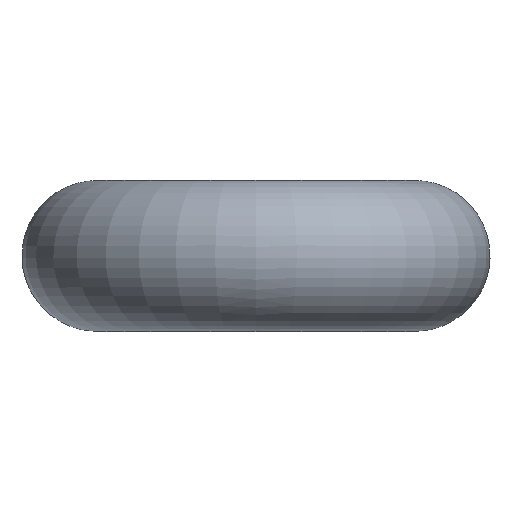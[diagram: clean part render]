
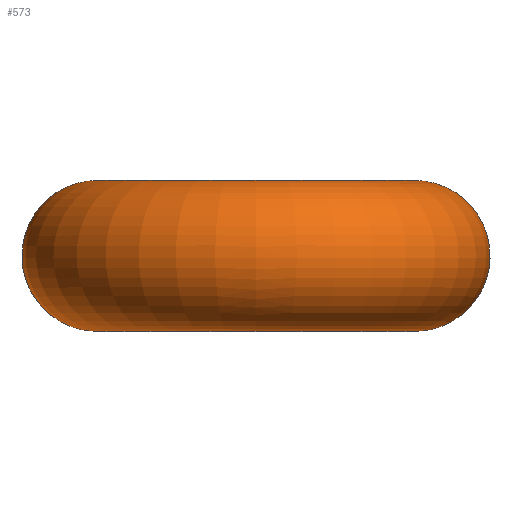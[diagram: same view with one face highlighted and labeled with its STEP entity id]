
A CAD part, top view. The second image highlights one B-rep face of the part: STEP entity #573.
In plain terms, the highlighted toroidal (fillet/blend) face has major radius 5.25 mm and minor radius 2.5 mm.
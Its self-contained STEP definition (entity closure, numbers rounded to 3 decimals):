
#445=CARTESIAN_POINT('',(4.999,0.464,-5.901));
#446=VERTEX_POINT('',#445);
#477=CARTESIAN_POINT('',(4.999,0.465,-5.901));
#478=CARTESIAN_POINT('',(5.113,0.476,-5.806));
#479=CARTESIAN_POINT('',(5.337,0.437,-5.599));
#480=CARTESIAN_POINT('',(5.573,0.199,-5.31));
#481=CARTESIAN_POINT('',(5.631,-0.149,-5.095));
#482=CARTESIAN_POINT('',(5.496,-0.538,-4.968));
#483=CARTESIAN_POINT('',(5.219,-0.837,-4.949));
#484=CARTESIAN_POINT('',(4.866,-1.052,-5.019));
#485=CARTESIAN_POINT('',(4.494,-1.171,-5.177));
#486=CARTESIAN_POINT('',(4.219,-1.128,-5.465));
#487=CARTESIAN_POINT('',(4.106,-1.011,-5.704));
#488=CARTESIAN_POINT('',(4.043,-0.856,-5.923));
#489=CARTESIAN_POINT('',(4.044,-0.511,-6.243));
#490=CARTESIAN_POINT('',(4.255,-0.003,-6.365));
#491=CARTESIAN_POINT('',(4.652,0.368,-6.169));
#492=CARTESIAN_POINT('',(4.885,0.453,-5.996));
#493=CARTESIAN_POINT('',(4.999,0.465,-5.901));
#494=B_SPLINE_CURVE_WITH_KNOTS('',3,(#477,#478,#479,#480,#481,#482,#483,#484,#485,#486,#487,#488,#489,#490,#491,#492,#493),.UNSPECIFIED.,.T.,.U.,(4,1,1,1,1,1,1,1,1,1,1,1,1,1,4),(0.0,0.02,0.041,0.061,0.081,0.106,0.122,0.142,0.162,0.172,0.183,0.203,0.243,0.264,0.284),.UNSPECIFIED.);
#495=EDGE_CURVE('',#446,#446,#494,.T.);
#520=CARTESIAN_POINT('',(0.,0.75,0.));
#521=DIRECTION('',(0.,-1.0,0.));
#522=DIRECTION('',(0.0,0.0,1.0));
#523=AXIS2_PLACEMENT_3D('',#520,#521,#522);
#524=TOROIDAL_SURFACE('',#523,5.25,2.5);
#525=CARTESIAN_POINT('',(0.,3.25,5.25));
#526=VERTEX_POINT('',#525);
#527=CARTESIAN_POINT('',(0.,3.25,0.));
#528=DIRECTION('',(0.0,-1.0,0.0));
#529=DIRECTION('',(0.0,0.0,-1.0));
#530=AXIS2_PLACEMENT_3D('',#527,#528,#529);
#531=CIRCLE('',#530,5.25);
#532=EDGE_CURVE('',#526,#526,#531,.T.);
#533=ORIENTED_EDGE('',*,*,#532,.T.);
#534=EDGE_LOOP('',(#533));
#535=FACE_OUTER_BOUND('',#534,.T.);
#536=CARTESIAN_POINT('',(0.,-1.75,5.25));
#537=VERTEX_POINT('',#536);
#538=CARTESIAN_POINT('',(0.,-1.75,0.));
#539=DIRECTION('',(0.0,1.0,0.0));
#540=DIRECTION('',(0.0,0.0,-1.0));
#541=AXIS2_PLACEMENT_3D('',#538,#539,#540);
#542=CIRCLE('',#541,5.25);
#543=EDGE_CURVE('',#537,#537,#542,.T.);
#544=ORIENTED_EDGE('',*,*,#543,.T.);
#545=EDGE_LOOP('',(#544));
#546=FACE_BOUND('',#545,.T.);
#547=CARTESIAN_POINT('',(-4.999,1.036,-5.901));
#548=VERTEX_POINT('',#547);
#549=CARTESIAN_POINT('',(-5.,1.036,-5.9));
#550=CARTESIAN_POINT('',(-5.114,1.024,-5.805));
#551=CARTESIAN_POINT('',(-5.339,1.065,-5.598));
#552=CARTESIAN_POINT('',(-5.572,1.301,-5.31));
#553=CARTESIAN_POINT('',(-5.632,1.649,-5.095));
#554=CARTESIAN_POINT('',(-5.462,2.128,-4.942));
#555=CARTESIAN_POINT('',(-5.033,2.498,-4.95));
#556=CARTESIAN_POINT('',(-4.495,2.67,-5.176));
#557=CARTESIAN_POINT('',(-4.218,2.628,-5.466));
#558=CARTESIAN_POINT('',(-4.106,2.51,-5.704));
#559=CARTESIAN_POINT('',(-4.042,2.356,-5.924));
#560=CARTESIAN_POINT('',(-4.043,2.083,-6.175));
#561=CARTESIAN_POINT('',(-4.162,1.728,-6.313));
#562=CARTESIAN_POINT('',(-4.45,1.27,-6.301));
#563=CARTESIAN_POINT('',(-4.772,1.06,-6.09));
#564=CARTESIAN_POINT('',(-5.,1.036,-5.9));
#565=B_SPLINE_CURVE_WITH_KNOTS('',3,(#549,#550,#551,#552,#553,#554,#555,#556,#557,#558,#559,#560,#561,#562,#563,#564),.UNSPECIFIED.,.T.,.U.,(4,1,1,1,1,1,1,1,1,1,1,1,1,4),(0.0,0.02,0.041,0.061,0.081,0.122,0.142,0.162,0.172,0.183,0.203,0.228,0.243,0.284),.UNSPECIFIED.);
#566=EDGE_CURVE('',#548,#548,#565,.T.);
#567=ORIENTED_EDGE('',*,*,#566,.F.);
#568=EDGE_LOOP('',(#567));
#569=FACE_BOUND('',#568,.T.);
#570=ORIENTED_EDGE('',*,*,#495,.F.);
#571=EDGE_LOOP('',(#570));
#572=FACE_BOUND('',#571,.T.);
#573=ADVANCED_FACE('',(#535,#546,#569,#572),#524,.T.);
